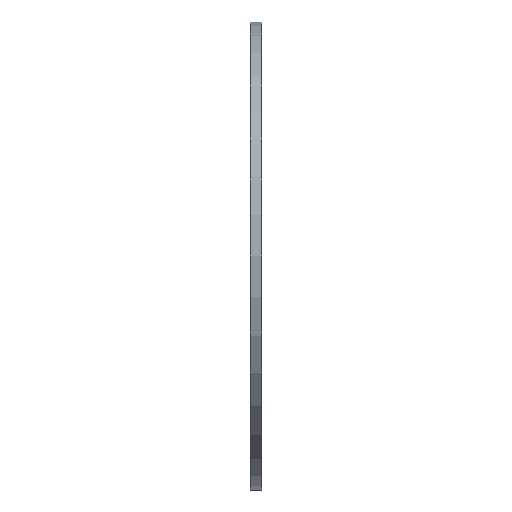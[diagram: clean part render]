
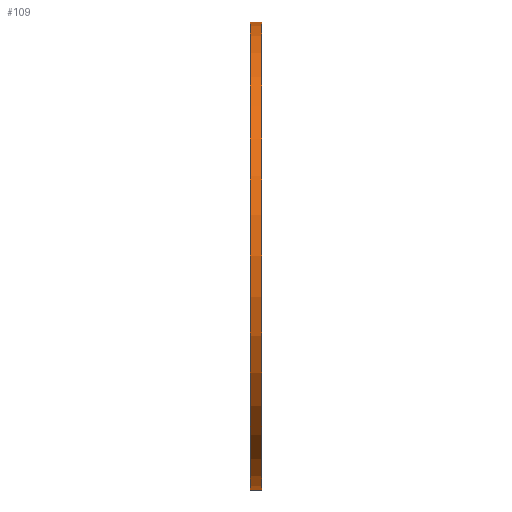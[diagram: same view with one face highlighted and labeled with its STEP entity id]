
A CAD part, left-side view. The second image highlights one B-rep face of the part: STEP entity #109.
In plain terms, the highlighted cylindrical face has radius 507.5 mm (diameter 1015 mm), a partial arc.
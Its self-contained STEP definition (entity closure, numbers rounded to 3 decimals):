
#63 = DIRECTION ( 'NONE',  ( 0., 0., 1. ) ) ;
#97 = VECTOR ( 'NONE', #233, 1000. ) ;
#109 = ADVANCED_FACE ( 'NONE', ( #1095 ), #814, .T. ) ;
#200 = VERTEX_POINT ( 'NONE', #713 ) ;
#211 = VERTEX_POINT ( 'NONE', #1313 ) ;
#223 = CARTESIAN_POINT ( 'NONE',  ( 0., 38.545, -507.5 ) ) ;
#233 = DIRECTION ( 'NONE',  ( 0., 1., 0. ) ) ;
#321 = AXIS2_PLACEMENT_3D ( 'NONE', #439, #1323, #1809 ) ;
#330 = CARTESIAN_POINT ( 'NONE',  ( 0., 25., 0. ) ) ;
#399 = EDGE_CURVE ( 'NONE', #767, #200, #1740, .T. ) ;
#402 = CARTESIAN_POINT ( 'NONE',  ( 0., 25., 507.5 ) ) ;
#439 = CARTESIAN_POINT ( 'NONE',  ( 0., 0., 0. ) ) ;
#663 = CIRCLE ( 'NONE', #1324, 507.5 ) ;
#693 = ORIENTED_EDGE ( 'NONE', *, *, #1055, .T. ) ;
#713 = CARTESIAN_POINT ( 'NONE',  ( 0., 0., 507.5 ) ) ;
#767 = VERTEX_POINT ( 'NONE', #1279 ) ;
#804 = DIRECTION ( 'NONE',  ( 0., 1., 0. ) ) ;
#814 = CYLINDRICAL_SURFACE ( 'NONE', #1837, 507.5 ) ;
#820 = VECTOR ( 'NONE', #804, 1000. ) ;
#896 = EDGE_CURVE ( 'NONE', #211, #1643, #663, .T. ) ;
#940 = DIRECTION ( 'NONE',  ( 0., 1., 0. ) ) ;
#949 = ORIENTED_EDGE ( 'NONE', *, *, #399, .T. ) ;
#1046 = EDGE_CURVE ( 'NONE', #767, #211, #1278, .T. ) ;
#1055 = EDGE_CURVE ( 'NONE', #200, #1643, #1877, .T. ) ;
#1095 = FACE_OUTER_BOUND ( 'NONE', #1433, .T. ) ;
#1129 = CARTESIAN_POINT ( 'NONE',  ( 0., 38.545, 507.5 ) ) ;
#1175 = DIRECTION ( 'NONE',  ( 0., 1., 0. ) ) ;
#1278 = LINE ( 'NONE', #223, #820 ) ;
#1279 = CARTESIAN_POINT ( 'NONE',  ( 0., 0., -507.5 ) ) ;
#1313 = CARTESIAN_POINT ( 'NONE',  ( 0., 25., -507.5 ) ) ;
#1323 = DIRECTION ( 'NONE',  ( 0., 1., 0. ) ) ;
#1324 = AXIS2_PLACEMENT_3D ( 'NONE', #330, #1175, #1522 ) ;
#1433 = EDGE_LOOP ( 'NONE', ( #1922, #949, #693, #1901 ) ) ;
#1522 = DIRECTION ( 'NONE',  ( 0., 0., 1. ) ) ;
#1528 = CARTESIAN_POINT ( 'NONE',  ( 0., 38.545, 0. ) ) ;
#1643 = VERTEX_POINT ( 'NONE', #402 ) ;
#1740 = CIRCLE ( 'NONE', #321, 507.5 ) ;
#1809 = DIRECTION ( 'NONE',  ( 0., 0., 1. ) ) ;
#1837 = AXIS2_PLACEMENT_3D ( 'NONE', #1528, #940, #63 ) ;
#1877 = LINE ( 'NONE', #1129, #97 ) ;
#1901 = ORIENTED_EDGE ( 'NONE', *, *, #896, .F. ) ;
#1922 = ORIENTED_EDGE ( 'NONE', *, *, #1046, .F. ) ;
